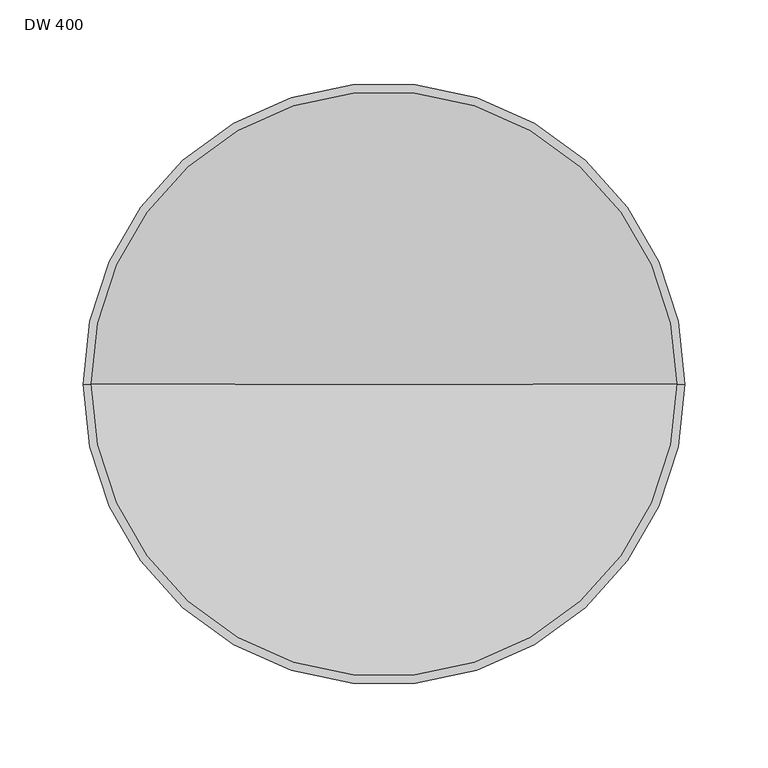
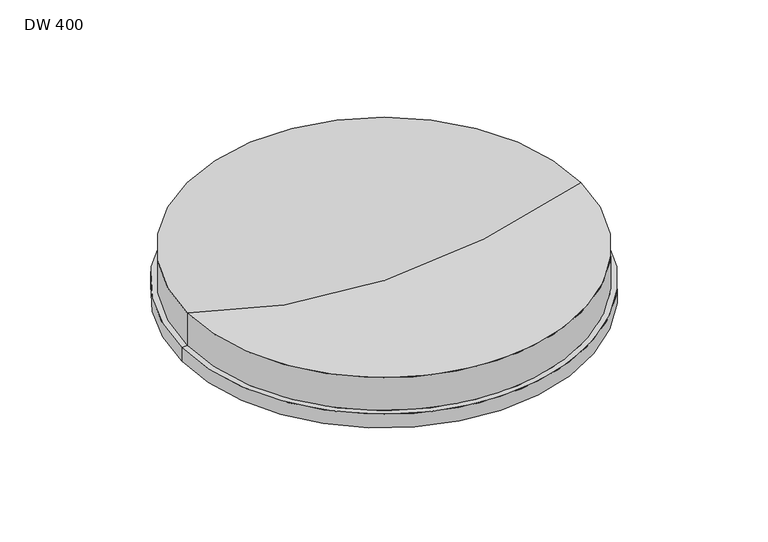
"""IFC4 building model written with IfcOpenShell, lengths in millimetres: valve geometry, Pipelife - Studnia PRO - Dno studni 400 : DW 400."""

from ifc_helpers import new_model, si_unit, point, frame, origin, origin_with_axes, place, context, project, spatial, circle_curve, ellipse_curve, trimmed, source, transform, mapped, element, save
from ifc_brep_helpers import plane_surface, cylinder_surface, revolved_surface, advanced_brep


def dw_400_6bda61c0(model_context):
    return source(origin(), model_context, "Body", "AdvancedBrep", [
        advanced_brep(
        [(-181.0, 0.0, 13.0), (181.0, 0.0, 13.0), (181.0, 0.0, 0.0), (-181.0, 0.0, 0.0), (-176.0, 0.0, 13.0), (176.0, 0.0, 13.0), (-176.0, 0.0, 44.0), (176.0, 0.0, 44.0), (0.0, 0.0, 0.0), (0.0, 0.0, 13.0)],
        [
            (0, 1, circle_curve(frame((0.0, 0.0, 13.0), z_axis=(0.0, 0.0, -1.0), x_axis=(1.0, 0.0, 0.0)), 181.0)),
            (1, 2),
            (2, 3, circle_curve(origin_with_axes(), 181.0)),
            (3, 0),
            (1, 0, circle_curve(frame((0.0, 0.0, 13.0), z_axis=(0.0, 0.0, -1.0), x_axis=(1.0, 0.0, 0.0)), 181.0)),
            (3, 2, circle_curve(origin_with_axes(), 181.0)),
            (4, 5, circle_curve(frame((0.0, 0.0, 13.0), z_axis=(0.0, 0.0, -1.0), x_axis=(1.0, 0.0, 0.0)), 176.0)),
            (5, 1),
            (0, 4),
            (5, 4, circle_curve(frame((0.0, 0.0, 13.0), z_axis=(0.0, 0.0, -1.0), x_axis=(1.0, 0.0, 0.0)), 176.0)),
            (6, 7, circle_curve(frame((0.0, 0.0, 44.0), z_axis=(0.0, 0.0, -1.0), x_axis=(1.0, 0.0, 0.0)), 176.0)),
            (7, 5),
            (4, 6),
            (7, 6, circle_curve(frame((0.0, 0.0, 44.0), z_axis=(0.0, 0.0, -1.0), x_axis=(1.0, 0.0, 0.0)), 176.0)),
            (2, 8),
            (8, 3),
            (9, 7, circle_curve(frame((0.0, 0.0, 528.1129032), z_axis=(0.0, -1.0, 0.0), x_axis=(1.0, 0.0, 0.0)), 515.1129032)),
            (6, 9, circle_curve(frame((0.0, 0.0, 528.1129032), z_axis=(0.0, -1.0, 0.0), x_axis=(-1.0, 0.0, 0.0)), 515.1129032)),
        ],
        [
            cylinder_surface(frame((0.0, 0.0, 119.0), z_axis=(0.0, 0.0, 1.0), x_axis=(1.0, 0.0, 0.0)), 181.0),
            plane_surface(frame((0.0, 0.0, 13.0), z_axis=(0.0, 0.0, 1.0), x_axis=(1.0, 0.0, 0.0))),
            cylinder_surface(frame((0.0, 0.0, 119.0), z_axis=(0.0, 0.0, 1.0), x_axis=(1.0, 0.0, 0.0)), 176.0),
            plane_surface(frame((0.0, 0.0, 0.0), z_axis=(0.0, 0.0, -1.0), x_axis=(1.0, 0.0, 0.0))),
            revolved_surface(trimmed(ellipse_curve(frame((0.0, 0.0, 528.1129032), z_axis=(0.0, 1.0, 0.0), x_axis=(1.0, 0.0, 0.0)), 515.1129032, 515.1129032), [point((176.0, 0.0, 44.0))], [point((0.0, 0.0, 13.0))], True, "CARTESIAN"), (0.0, 0.0, 119.0), (0.0, 0.0, 1.0)),
        ],
        [
            (0, [[1, 2, 3, 4]]),
            (0, [[5, -4, 6, -2]]),
            (1, [[7, 8, -1, 9]]),
            (1, [[10, -9, -5, -8]]),
            (2, [[11, 12, -7, 13]]),
            (2, [[14, -13, -10, -12]]),
            (3, [[-3, 15, 16]]),
            (3, [[-6, -16, -15]]),
            (4, [[17, -11, 18]]),
            (4, [[-18, -14, -17]]),
        ],
    ),
    ])


if __name__ == "__main__":
    model = new_model("IFC4")
    model_context = context("Model", 3, world=origin())
    ifc_project = project(units=[si_unit("LENGTHUNIT", "METRE", prefix="MILLI")], contexts=[model_context])
    site = spatial("IfcSite", under=ifc_project)
    building = spatial("IfcBuilding", under=site)
    placement = place(None, origin())
    dw_400_shape = dw_400_6bda61c0(model_context)
    element("IfcValve", 1, ObjectType="Pipelife - Studnia PRO - Dno studni 400 : DW 400", at=placement, inside=building, context=model_context, shape_type="MappedRepresentation", body=[
        mapped(dw_400_shape, transform((0.0, 0.0, 0.0), x_axis=(1.0, 0.0, 0.0), y_axis=(0.0, 1.0, 0.0), z_axis=(0.0, 0.0, 1.0))),
    ])
    save(model, "model.ifc")
